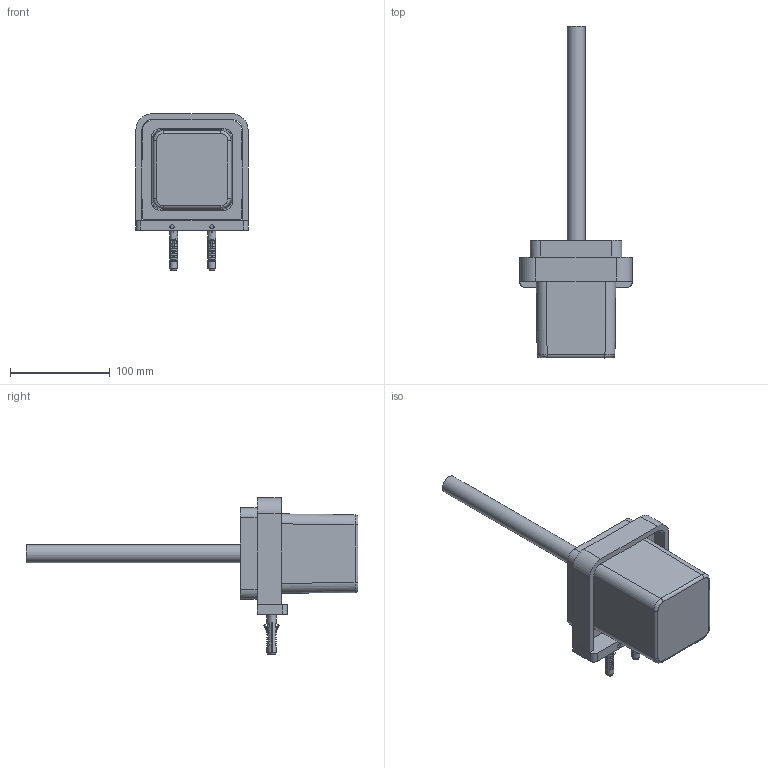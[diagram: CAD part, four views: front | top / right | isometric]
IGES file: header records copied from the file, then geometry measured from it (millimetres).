
Global section: file name: e7b1b00c-f0db-49f5-8bac-bea58d1a1ed7; native system: unknown; preprocessor: unknown; author: unknown; organization: unknown; date: 20200108.080757; units: millimetre
Bounding box: 112.5 x 333 x 157 mm (x, y, z)
Volume: 592123.9 mm3; surface area: 158452.1 mm2
Topology: 13 solids, 13 shells, 626 faces, 1636 edges, 1062 vertices
Faces by surface type: bspline 626
